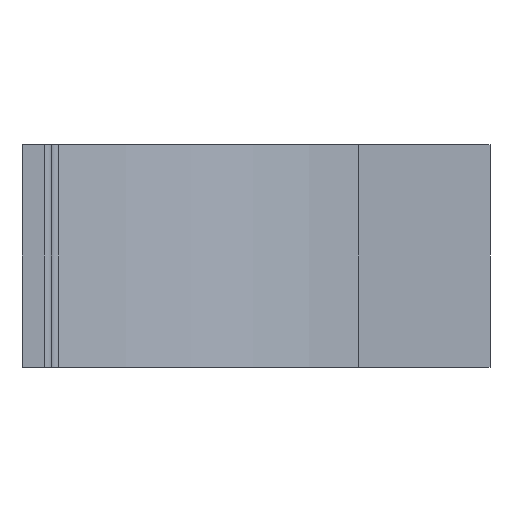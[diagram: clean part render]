
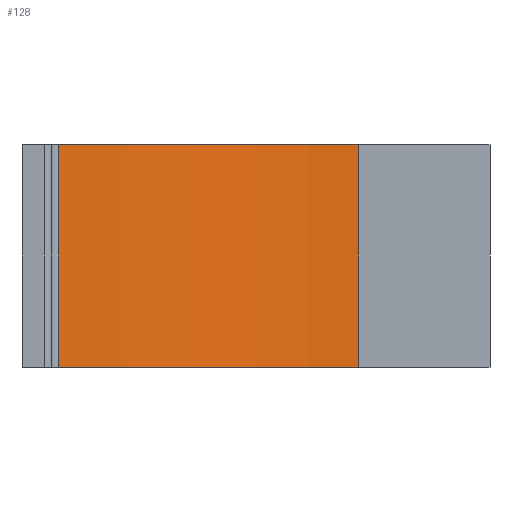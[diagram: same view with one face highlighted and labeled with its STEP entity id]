
A CAD part, left-side view. The second image highlights one B-rep face of the part: STEP entity #128.
In plain terms, the highlighted cylindrical face has radius 62.74 mm (diameter 125.48 mm), a partial arc.
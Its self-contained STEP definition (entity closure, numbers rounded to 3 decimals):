
#20 = VERTEX_POINT ( 'NONE', #1081 ) ;
#69 = CARTESIAN_POINT ( 'NONE',  ( -62.461, -5.906, 0. ) ) ;
#128 = ADVANCED_FACE ( 'NONE', ( #806 ), #978, .T. ) ;
#167 = DIRECTION ( 'NONE',  ( 0., 0., -1. ) ) ;
#173 = VECTOR ( 'NONE', #1268, 1000. ) ;
#177 = ORIENTED_EDGE ( 'NONE', *, *, #756, .F. ) ;
#184 = DIRECTION ( 'NONE',  ( 1., 0., 0. ) ) ;
#216 = EDGE_CURVE ( 'NONE', #939, #20, #1155, .T. ) ;
#337 = EDGE_CURVE ( 'NONE', #513, #939, #401, .T. ) ;
#339 = CIRCLE ( 'NONE', #1041, 62.74 ) ;
#345 = EDGE_CURVE ( 'NONE', #513, #949, #339, .T. ) ;
#358 = DIRECTION ( 'NONE',  ( 1., 0., 0. ) ) ;
#401 = LINE ( 'NONE', #571, #1123 ) ;
#481 = DIRECTION ( 'NONE',  ( 0., 0., 1. ) ) ;
#493 = AXIS2_PLACEMENT_3D ( 'NONE', #861, #966, #358 ) ;
#512 = CARTESIAN_POINT ( 'NONE',  ( -62.461, -5.906, 30. ) ) ;
#513 = VERTEX_POINT ( 'NONE', #512 ) ;
#540 = ORIENTED_EDGE ( 'NONE', *, *, #345, .F. ) ;
#541 = EDGE_LOOP ( 'NONE', ( #659, #177, #540, #1061 ) ) ;
#566 = CARTESIAN_POINT ( 'NONE',  ( 0., 0., 30. ) ) ;
#571 = CARTESIAN_POINT ( 'NONE',  ( -62.461, -5.906, 30. ) ) ;
#603 = AXIS2_PLACEMENT_3D ( 'NONE', #777, #167, #888 ) ;
#659 = ORIENTED_EDGE ( 'NONE', *, *, #216, .T. ) ;
#756 = EDGE_CURVE ( 'NONE', #949, #20, #1242, .T. ) ;
#777 = CARTESIAN_POINT ( 'NONE',  ( 0., 0., 30. ) ) ;
#806 = FACE_OUTER_BOUND ( 'NONE', #541, .T. ) ;
#861 = CARTESIAN_POINT ( 'NONE',  ( 0., 0., 0. ) ) ;
#888 = DIRECTION ( 'NONE',  ( -1., 0., 0. ) ) ;
#939 = VERTEX_POINT ( 'NONE', #69 ) ;
#949 = VERTEX_POINT ( 'NONE', #991 ) ;
#966 = DIRECTION ( 'NONE',  ( 0., 0., 1. ) ) ;
#978 = CYLINDRICAL_SURFACE ( 'NONE', #603, 62.74 ) ;
#991 = CARTESIAN_POINT ( 'NONE',  ( -42.079, -46.537, 30. ) ) ;
#1041 = AXIS2_PLACEMENT_3D ( 'NONE', #566, #481, #184 ) ;
#1061 = ORIENTED_EDGE ( 'NONE', *, *, #337, .T. ) ;
#1081 = CARTESIAN_POINT ( 'NONE',  ( -42.079, -46.537, 0. ) ) ;
#1123 = VECTOR ( 'NONE', #1305, 1000. ) ;
#1155 = CIRCLE ( 'NONE', #493, 62.74 ) ;
#1242 = LINE ( 'NONE', #1262, #173 ) ;
#1262 = CARTESIAN_POINT ( 'NONE',  ( -42.079, -46.537, 30. ) ) ;
#1268 = DIRECTION ( 'NONE',  ( 0., 0., -1. ) ) ;
#1305 = DIRECTION ( 'NONE',  ( 0., 0., -1. ) ) ;
